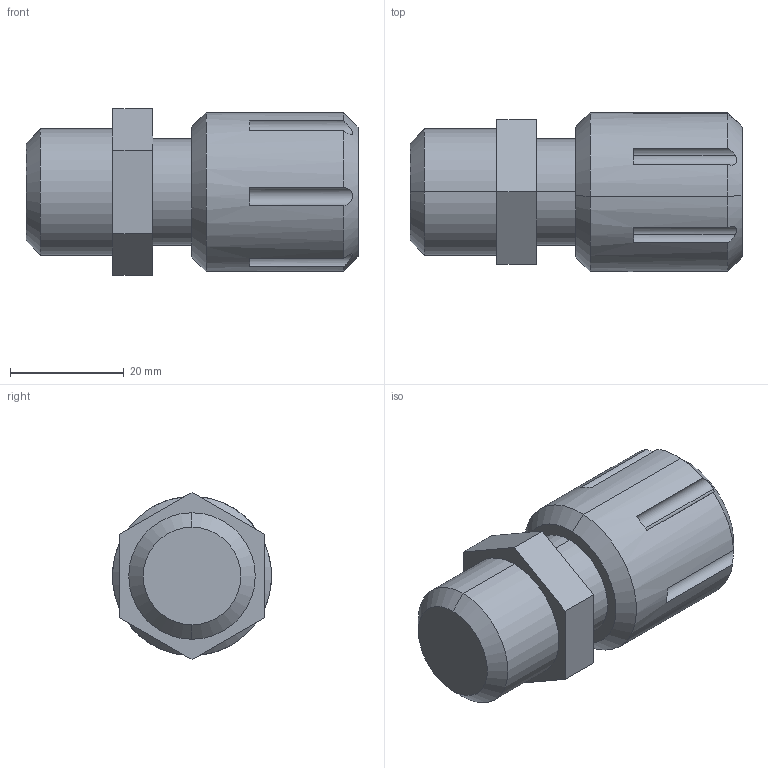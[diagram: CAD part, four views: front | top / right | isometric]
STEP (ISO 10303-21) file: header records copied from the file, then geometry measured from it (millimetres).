
FILE_DESCRIPTION (( 'STEP AP214' ), '1' );
FILE_NAME ('Fitting Flaretek Compatible 08.STEP', '2012-09-26T16:03:02', ( '' ), ( '' ), 'SwSTEP 2.0', 'SolidWorks 2012', '' );
FILE_SCHEMA (( 'AUTOMOTIVE_DESIGN' ));
Length unit declared in the file: inch
Products named in the file (1): Fitting Flaretek Compatible  08
Bounding box: 58.31 x 27.94 x 29.33 mm (x, y, z)
Volume: 27551.7 mm3; surface area: 6502.9 mm2
Topology: 1 solids, 1 shells, 40 faces, 96 edges, 62 vertices
Faces by surface type: plane 18, cylinder 16, cone 6
Entity records: 1387 total; most frequent: CARTESIAN_POINT 349, DIRECTION 212, ORIENTED_EDGE 192, EDGE_CURVE 96, AXIS2_PLACEMENT_3D 83, VERTEX_POINT 62, VECTOR 46, LINE 46
